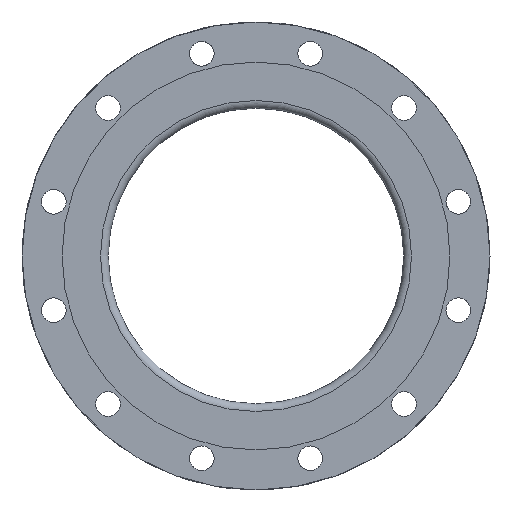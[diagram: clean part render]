
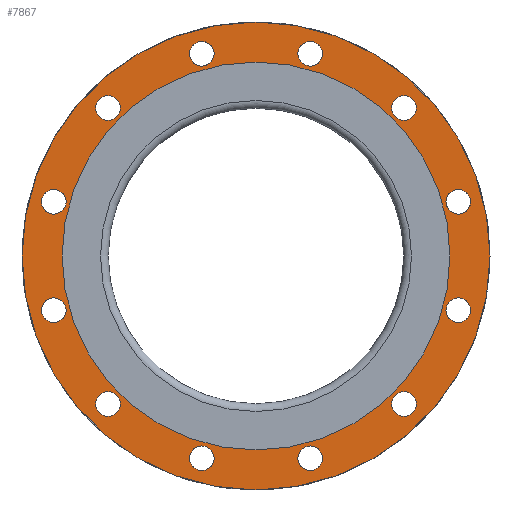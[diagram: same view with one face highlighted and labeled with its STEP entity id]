
A CAD part, left-side view. The second image highlights one B-rep face of the part: STEP entity #7867.
In plain terms, the highlighted planar face has unit normal (-1, 0, 0).
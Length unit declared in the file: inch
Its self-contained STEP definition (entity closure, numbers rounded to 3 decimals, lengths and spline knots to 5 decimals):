
#936=PLANE('',#8361);
#1070=FACE_BOUND('',#1751,.T.);
#1071=FACE_BOUND('',#1752,.T.);
#1072=FACE_BOUND('',#1753,.T.);
#1073=FACE_BOUND('',#1754,.T.);
#1074=FACE_BOUND('',#1755,.T.);
#1075=FACE_BOUND('',#1756,.T.);
#1076=FACE_BOUND('',#1757,.T.);
#1077=FACE_BOUND('',#1758,.T.);
#1078=FACE_BOUND('',#1759,.T.);
#1079=FACE_BOUND('',#1760,.T.);
#1080=FACE_BOUND('',#1761,.T.);
#1081=FACE_BOUND('',#1762,.T.);
#1082=FACE_BOUND('',#1763,.T.);
#1286=FACE_OUTER_BOUND('',#1750,.T.);
#1750=EDGE_LOOP('',(#4938));
#1751=EDGE_LOOP('',(#4939));
#1752=EDGE_LOOP('',(#4940));
#1753=EDGE_LOOP('',(#4941));
#1754=EDGE_LOOP('',(#4942));
#1755=EDGE_LOOP('',(#4943));
#1756=EDGE_LOOP('',(#4944));
#1757=EDGE_LOOP('',(#4945));
#1758=EDGE_LOOP('',(#4946));
#1759=EDGE_LOOP('',(#4947));
#1760=EDGE_LOOP('',(#4948));
#1761=EDGE_LOOP('',(#4949));
#1762=EDGE_LOOP('',(#4950));
#1763=EDGE_LOOP('',(#4951));
#2359=CIRCLE('',#8291,0.5);
#2361=CIRCLE('',#8294,0.5);
#2363=CIRCLE('',#8297,0.5);
#2365=CIRCLE('',#8300,0.5);
#2367=CIRCLE('',#8303,0.5);
#2369=CIRCLE('',#8306,0.5);
#2371=CIRCLE('',#8309,0.5);
#2373=CIRCLE('',#8312,0.5);
#2375=CIRCLE('',#8315,0.5);
#2377=CIRCLE('',#8318,0.5);
#2379=CIRCLE('',#8321,0.5);
#2381=CIRCLE('',#8324,0.5);
#2406=CIRCLE('',#8362,9.5);
#2407=CIRCLE('',#8363,7.875);
#3011=VERTEX_POINT('',#12019);
#3013=VERTEX_POINT('',#12024);
#3015=VERTEX_POINT('',#12029);
#3017=VERTEX_POINT('',#12034);
#3019=VERTEX_POINT('',#12039);
#3021=VERTEX_POINT('',#12044);
#3023=VERTEX_POINT('',#12049);
#3025=VERTEX_POINT('',#12054);
#3027=VERTEX_POINT('',#12059);
#3029=VERTEX_POINT('',#12064);
#3031=VERTEX_POINT('',#12069);
#3033=VERTEX_POINT('',#12074);
#3058=VERTEX_POINT('',#12137);
#3059=VERTEX_POINT('',#12139);
#3791=EDGE_CURVE('',#3011,#3011,#2359,.T.);
#3793=EDGE_CURVE('',#3013,#3013,#2361,.T.);
#3795=EDGE_CURVE('',#3015,#3015,#2363,.T.);
#3797=EDGE_CURVE('',#3017,#3017,#2365,.T.);
#3799=EDGE_CURVE('',#3019,#3019,#2367,.T.);
#3801=EDGE_CURVE('',#3021,#3021,#2369,.T.);
#3803=EDGE_CURVE('',#3023,#3023,#2371,.T.);
#3805=EDGE_CURVE('',#3025,#3025,#2373,.T.);
#3807=EDGE_CURVE('',#3027,#3027,#2375,.T.);
#3809=EDGE_CURVE('',#3029,#3029,#2377,.T.);
#3811=EDGE_CURVE('',#3031,#3031,#2379,.T.);
#3813=EDGE_CURVE('',#3033,#3033,#2381,.T.);
#3838=EDGE_CURVE('',#3058,#3058,#2406,.T.);
#3839=EDGE_CURVE('',#3059,#3059,#2407,.T.);
#4938=ORIENTED_EDGE('',*,*,#3838,.F.);
#4939=ORIENTED_EDGE('',*,*,#3791,.T.);
#4940=ORIENTED_EDGE('',*,*,#3793,.T.);
#4941=ORIENTED_EDGE('',*,*,#3795,.T.);
#4942=ORIENTED_EDGE('',*,*,#3797,.T.);
#4943=ORIENTED_EDGE('',*,*,#3799,.T.);
#4944=ORIENTED_EDGE('',*,*,#3801,.T.);
#4945=ORIENTED_EDGE('',*,*,#3803,.T.);
#4946=ORIENTED_EDGE('',*,*,#3805,.T.);
#4947=ORIENTED_EDGE('',*,*,#3807,.T.);
#4948=ORIENTED_EDGE('',*,*,#3809,.T.);
#4949=ORIENTED_EDGE('',*,*,#3811,.T.);
#4950=ORIENTED_EDGE('',*,*,#3813,.T.);
#4951=ORIENTED_EDGE('',*,*,#3839,.T.);
#7867=ADVANCED_FACE('',(#1286,#1070,#1071,#1072,#1073,#1074,#1075,#1076,
#1077,#1078,#1079,#1080,#1081,#1082),#936,.T.);
#8291=AXIS2_PLACEMENT_3D('',#12020,#9387,#9388);
#8294=AXIS2_PLACEMENT_3D('',#12025,#9393,#9394);
#8297=AXIS2_PLACEMENT_3D('',#12030,#9399,#9400);
#8300=AXIS2_PLACEMENT_3D('',#12035,#9405,#9406);
#8303=AXIS2_PLACEMENT_3D('',#12040,#9411,#9412);
#8306=AXIS2_PLACEMENT_3D('',#12045,#9417,#9418);
#8309=AXIS2_PLACEMENT_3D('',#12050,#9423,#9424);
#8312=AXIS2_PLACEMENT_3D('',#12055,#9429,#9430);
#8315=AXIS2_PLACEMENT_3D('',#12060,#9435,#9436);
#8318=AXIS2_PLACEMENT_3D('',#12065,#9441,#9442);
#8321=AXIS2_PLACEMENT_3D('',#12070,#9447,#9448);
#8324=AXIS2_PLACEMENT_3D('',#12075,#9453,#9454);
#8361=AXIS2_PLACEMENT_3D('',#12136,#9527,#9528);
#8362=AXIS2_PLACEMENT_3D('',#12138,#9529,#9530);
#8363=AXIS2_PLACEMENT_3D('',#12140,#9531,#9532);
#9387=DIRECTION('center_axis',(1.,0.,0.));
#9388=DIRECTION('ref_axis',(0.,-0.5,-0.866));
#9393=DIRECTION('center_axis',(1.,0.,0.));
#9394=DIRECTION('ref_axis',(0.,-0.866,-0.5));
#9399=DIRECTION('center_axis',(1.,0.,0.));
#9400=DIRECTION('ref_axis',(0.,-1.,0.));
#9405=DIRECTION('center_axis',(1.,0.,0.));
#9406=DIRECTION('ref_axis',(0.,-0.866,0.5));
#9411=DIRECTION('center_axis',(1.,0.,0.));
#9412=DIRECTION('ref_axis',(0.,-0.5,0.866));
#9417=DIRECTION('center_axis',(1.,0.,0.));
#9418=DIRECTION('ref_axis',(0.,0.,1.));
#9423=DIRECTION('center_axis',(1.,0.,0.));
#9424=DIRECTION('ref_axis',(0.,0.5,0.866));
#9429=DIRECTION('center_axis',(1.,0.,0.));
#9430=DIRECTION('ref_axis',(0.,0.866,0.5));
#9435=DIRECTION('center_axis',(1.,0.,0.));
#9436=DIRECTION('ref_axis',(0.,1.,0.));
#9441=DIRECTION('center_axis',(1.,0.,0.));
#9442=DIRECTION('ref_axis',(0.,0.866,-0.5));
#9447=DIRECTION('center_axis',(1.,0.,0.));
#9448=DIRECTION('ref_axis',(0.,0.5,-0.866));
#9453=DIRECTION('center_axis',(1.,0.,0.));
#9454=DIRECTION('ref_axis',(0.,0.,-1.));
#9527=DIRECTION('center_axis',(-1.,0.,0.));
#9528=DIRECTION('ref_axis',(0.,0.,1.));
#9529=DIRECTION('center_axis',(1.,0.,0.));
#9530=DIRECTION('ref_axis',(0.,0.,-1.));
#9531=DIRECTION('center_axis',(1.,0.,0.));
#9532=DIRECTION('ref_axis',(0.,0.,-1.));
#12019=CARTESIAN_POINT('',(-6.,6.26041,-5.57739));
#12020=CARTESIAN_POINT('Origin',(-6.,6.01041,-6.01041));
#12024=CARTESIAN_POINT('',(-6.,2.63297,-7.96037));
#12025=CARTESIAN_POINT('Origin',(-6.,2.19996,-8.21037));
#12029=CARTESIAN_POINT('',(-6.,-1.69996,-8.21037));
#12030=CARTESIAN_POINT('Origin',(-6.,-2.19996,-8.21037));
#12034=CARTESIAN_POINT('',(-6.,-5.57739,-6.26041));
#12035=CARTESIAN_POINT('Origin',(-6.,-6.01041,-6.01041));
#12039=CARTESIAN_POINT('',(-6.,-7.96037,-2.63297));
#12040=CARTESIAN_POINT('Origin',(-6.,-8.21037,-2.19996));
#12044=CARTESIAN_POINT('',(-6.,-8.21037,1.69996));
#12045=CARTESIAN_POINT('Origin',(-6.,-8.21037,2.19996));
#12049=CARTESIAN_POINT('',(-6.,-6.26041,5.57739));
#12050=CARTESIAN_POINT('Origin',(-6.,-6.01041,6.01041));
#12054=CARTESIAN_POINT('',(-6.,-2.63297,7.96037));
#12055=CARTESIAN_POINT('Origin',(-6.,-2.19996,8.21037));
#12059=CARTESIAN_POINT('',(-6.,1.69996,8.21037));
#12060=CARTESIAN_POINT('Origin',(-6.,2.19996,8.21037));
#12064=CARTESIAN_POINT('',(-6.,5.57739,6.26041));
#12065=CARTESIAN_POINT('Origin',(-6.,6.01041,6.01041));
#12069=CARTESIAN_POINT('',(-6.,7.96037,2.63297));
#12070=CARTESIAN_POINT('Origin',(-6.,8.21037,2.19996));
#12074=CARTESIAN_POINT('',(-6.,8.21037,-1.69996));
#12075=CARTESIAN_POINT('Origin',(-6.,8.21037,-2.19996));
#12136=CARTESIAN_POINT('Origin',(-6.,9.5,0.));
#12137=CARTESIAN_POINT('',(-6.,9.5,0.));
#12138=CARTESIAN_POINT('Origin',(-6.,0.,0.));
#12139=CARTESIAN_POINT('',(-6.,7.875,0.));
#12140=CARTESIAN_POINT('Origin',(-6.,0.,0.));
